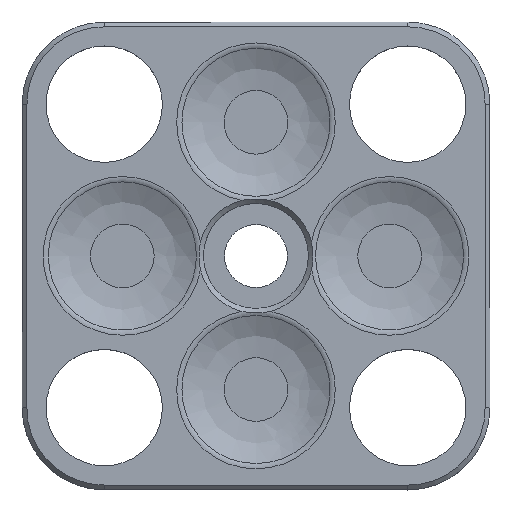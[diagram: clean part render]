
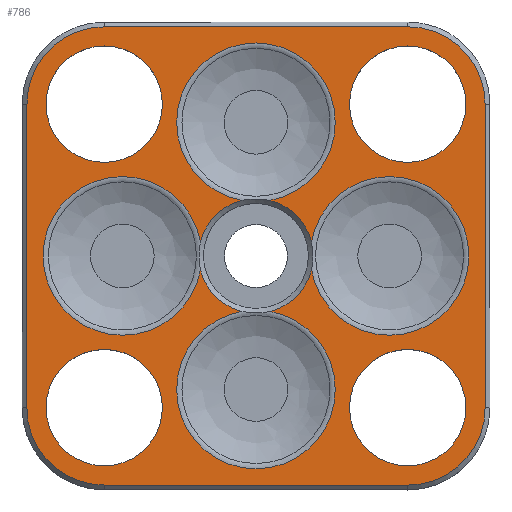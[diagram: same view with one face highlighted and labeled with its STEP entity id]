
A CAD part, top view. The second image highlights one B-rep face of the part: STEP entity #786.
In plain terms, the highlighted planar face has unit normal (0, 0, 1).
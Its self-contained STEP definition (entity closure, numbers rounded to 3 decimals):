
#35=FACE_BOUND('',#154,.T.);
#36=FACE_BOUND('',#155,.T.);
#37=FACE_BOUND('',#156,.T.);
#38=FACE_BOUND('',#157,.T.);
#39=FACE_BOUND('',#158,.T.);
#54=PLANE('',#873);
#98=FACE_OUTER_BOUND('',#153,.T.);
#153=EDGE_LOOP('',(#633,#634,#635,#636,#637,#638,#639,#640));
#154=EDGE_LOOP('',(#641));
#155=EDGE_LOOP('',(#642));
#156=EDGE_LOOP('',(#643));
#157=EDGE_LOOP('',(#644));
#158=EDGE_LOOP('',(#645,#646,#647,#648,#649,#650,#651,#652,#653,#654,#655));
#210=LINE('',#1283,#259);
#214=LINE('',#1294,#263);
#217=LINE('',#1302,#266);
#220=LINE('',#1310,#269);
#259=VECTOR('',#1027,10.);
#263=VECTOR('',#1039,10.);
#266=VECTOR('',#1048,10.);
#269=VECTOR('',#1057,10.);
#298=CIRCLE('',#859,8.12);
#300=CIRCLE('',#863,8.11);
#301=CIRCLE('',#866,8.1);
#302=CIRCLE('',#869,8.113);
#304=CIRCLE('',#874,6.1);
#305=CIRCLE('',#875,6.1);
#306=CIRCLE('',#876,6.1);
#307=CIRCLE('',#877,6.1);
#308=CIRCLE('',#878,6.);
#309=CIRCLE('',#879,8.311);
#310=CIRCLE('',#880,6.);
#311=CIRCLE('',#881,8.311);
#312=CIRCLE('',#882,8.311);
#313=CIRCLE('',#883,6.);
#314=CIRCLE('',#884,8.311);
#315=CIRCLE('',#885,8.311);
#316=CIRCLE('',#886,6.);
#317=CIRCLE('',#887,8.311);
#318=CIRCLE('',#888,8.311);
#368=VERTEX_POINT('',#1276);
#371=VERTEX_POINT('',#1281);
#372=VERTEX_POINT('',#1285);
#374=VERTEX_POINT('',#1291);
#375=VERTEX_POINT('',#1296);
#376=VERTEX_POINT('',#1300);
#377=VERTEX_POINT('',#1304);
#378=VERTEX_POINT('',#1308);
#379=VERTEX_POINT('',#1319);
#380=VERTEX_POINT('',#1321);
#381=VERTEX_POINT('',#1323);
#382=VERTEX_POINT('',#1325);
#383=VERTEX_POINT('',#1327);
#384=VERTEX_POINT('',#1328);
#385=VERTEX_POINT('',#1330);
#386=VERTEX_POINT('',#1332);
#387=VERTEX_POINT('',#1334);
#388=VERTEX_POINT('',#1336);
#389=VERTEX_POINT('',#1338);
#390=VERTEX_POINT('',#1340);
#391=VERTEX_POINT('',#1342);
#392=VERTEX_POINT('',#1344);
#393=VERTEX_POINT('',#1346);
#454=EDGE_CURVE('',#371,#368,#210,.T.);
#455=EDGE_CURVE('',#368,#372,#298,.T.);
#460=EDGE_CURVE('',#372,#374,#214,.T.);
#461=EDGE_CURVE('',#374,#375,#300,.T.);
#464=EDGE_CURVE('',#375,#376,#217,.T.);
#465=EDGE_CURVE('',#376,#377,#301,.T.);
#468=EDGE_CURVE('',#377,#378,#220,.T.);
#469=EDGE_CURVE('',#378,#371,#302,.T.);
#473=EDGE_CURVE('',#379,#379,#304,.T.);
#474=EDGE_CURVE('',#380,#380,#305,.T.);
#475=EDGE_CURVE('',#381,#381,#306,.T.);
#476=EDGE_CURVE('',#382,#382,#307,.T.);
#477=EDGE_CURVE('',#383,#384,#308,.T.);
#478=EDGE_CURVE('',#385,#383,#309,.T.);
#479=EDGE_CURVE('',#386,#385,#310,.T.);
#480=EDGE_CURVE('',#387,#386,#311,.T.);
#481=EDGE_CURVE('',#388,#387,#312,.T.);
#482=EDGE_CURVE('',#389,#388,#313,.T.);
#483=EDGE_CURVE('',#390,#389,#314,.T.);
#484=EDGE_CURVE('',#391,#390,#315,.T.);
#485=EDGE_CURVE('',#392,#391,#316,.T.);
#486=EDGE_CURVE('',#393,#392,#317,.T.);
#487=EDGE_CURVE('',#384,#393,#318,.T.);
#633=ORIENTED_EDGE('',*,*,#454,.F.);
#634=ORIENTED_EDGE('',*,*,#469,.F.);
#635=ORIENTED_EDGE('',*,*,#468,.F.);
#636=ORIENTED_EDGE('',*,*,#465,.F.);
#637=ORIENTED_EDGE('',*,*,#464,.F.);
#638=ORIENTED_EDGE('',*,*,#461,.F.);
#639=ORIENTED_EDGE('',*,*,#460,.F.);
#640=ORIENTED_EDGE('',*,*,#455,.F.);
#641=ORIENTED_EDGE('',*,*,#473,.T.);
#642=ORIENTED_EDGE('',*,*,#474,.T.);
#643=ORIENTED_EDGE('',*,*,#475,.T.);
#644=ORIENTED_EDGE('',*,*,#476,.T.);
#645=ORIENTED_EDGE('',*,*,#477,.F.);
#646=ORIENTED_EDGE('',*,*,#478,.F.);
#647=ORIENTED_EDGE('',*,*,#479,.F.);
#648=ORIENTED_EDGE('',*,*,#480,.F.);
#649=ORIENTED_EDGE('',*,*,#481,.F.);
#650=ORIENTED_EDGE('',*,*,#482,.F.);
#651=ORIENTED_EDGE('',*,*,#483,.F.);
#652=ORIENTED_EDGE('',*,*,#484,.F.);
#653=ORIENTED_EDGE('',*,*,#485,.F.);
#654=ORIENTED_EDGE('',*,*,#486,.F.);
#655=ORIENTED_EDGE('',*,*,#487,.F.);
#786=ADVANCED_FACE('',(#98,#35,#36,#37,#38,#39),#54,.T.);
#859=AXIS2_PLACEMENT_3D('',#1286,#1030,#1031);
#863=AXIS2_PLACEMENT_3D('',#1297,#1042,#1043);
#866=AXIS2_PLACEMENT_3D('',#1305,#1051,#1052);
#869=AXIS2_PLACEMENT_3D('',#1312,#1060,#1061);
#873=AXIS2_PLACEMENT_3D('',#1318,#1070,#1071);
#874=AXIS2_PLACEMENT_3D('',#1320,#1072,#1073);
#875=AXIS2_PLACEMENT_3D('',#1322,#1074,#1075);
#876=AXIS2_PLACEMENT_3D('',#1324,#1076,#1077);
#877=AXIS2_PLACEMENT_3D('',#1326,#1078,#1079);
#878=AXIS2_PLACEMENT_3D('',#1329,#1080,#1081);
#879=AXIS2_PLACEMENT_3D('',#1331,#1082,#1083);
#880=AXIS2_PLACEMENT_3D('',#1333,#1084,#1085);
#881=AXIS2_PLACEMENT_3D('',#1335,#1086,#1087);
#882=AXIS2_PLACEMENT_3D('',#1337,#1088,#1089);
#883=AXIS2_PLACEMENT_3D('',#1339,#1090,#1091);
#884=AXIS2_PLACEMENT_3D('',#1341,#1092,#1093);
#885=AXIS2_PLACEMENT_3D('',#1343,#1094,#1095);
#886=AXIS2_PLACEMENT_3D('',#1345,#1096,#1097);
#887=AXIS2_PLACEMENT_3D('',#1347,#1098,#1099);
#888=AXIS2_PLACEMENT_3D('',#1348,#1100,#1101);
#1027=DIRECTION('',(0.,-1.,0.));
#1030=DIRECTION('center_axis',(0.,0.,-1.));
#1031=DIRECTION('ref_axis',(0.,-1.,0.));
#1039=DIRECTION('',(-1.,0.,0.));
#1042=DIRECTION('center_axis',(0.,0.,-1.));
#1043=DIRECTION('ref_axis',(-1.,0.,0.));
#1048=DIRECTION('',(0.,1.,0.));
#1051=DIRECTION('center_axis',(0.,0.,-1.));
#1052=DIRECTION('ref_axis',(0.,1.,0.));
#1057=DIRECTION('',(1.,0.,0.));
#1060=DIRECTION('center_axis',(0.,0.,-1.));
#1061=DIRECTION('ref_axis',(1.,0.,0.));
#1070=DIRECTION('center_axis',(0.,0.,1.));
#1071=DIRECTION('ref_axis',(1.,0.,0.));
#1072=DIRECTION('center_axis',(0.,0.,-1.));
#1073=DIRECTION('ref_axis',(1.,0.,0.));
#1074=DIRECTION('center_axis',(0.,0.,-1.));
#1075=DIRECTION('ref_axis',(1.,0.,0.));
#1076=DIRECTION('center_axis',(0.,0.,-1.));
#1077=DIRECTION('ref_axis',(1.,0.,0.));
#1078=DIRECTION('center_axis',(0.,0.,-1.));
#1079=DIRECTION('ref_axis',(1.,0.,0.));
#1080=DIRECTION('center_axis',(0.,0.,1.));
#1081=DIRECTION('ref_axis',(-1.,0.,0.));
#1082=DIRECTION('center_axis',(0.,0.,1.));
#1083=DIRECTION('ref_axis',(1.,0.,0.));
#1084=DIRECTION('center_axis',(0.,0.,1.));
#1085=DIRECTION('ref_axis',(-1.,0.,0.));
#1086=DIRECTION('center_axis',(0.,0.,1.));
#1087=DIRECTION('ref_axis',(1.,0.,0.));
#1088=DIRECTION('center_axis',(0.,0.,1.));
#1089=DIRECTION('ref_axis',(1.,0.,0.));
#1090=DIRECTION('center_axis',(0.,0.,1.));
#1091=DIRECTION('ref_axis',(-1.,0.,0.));
#1092=DIRECTION('center_axis',(0.,0.,1.));
#1093=DIRECTION('ref_axis',(1.,0.,0.));
#1094=DIRECTION('center_axis',(0.,0.,1.));
#1095=DIRECTION('ref_axis',(1.,0.,0.));
#1096=DIRECTION('center_axis',(0.,0.,1.));
#1097=DIRECTION('ref_axis',(-1.,0.,0.));
#1098=DIRECTION('center_axis',(0.,0.,1.));
#1099=DIRECTION('ref_axis',(1.,0.,0.));
#1100=DIRECTION('center_axis',(0.,0.,1.));
#1101=DIRECTION('ref_axis',(1.,0.,0.));
#1276=CARTESIAN_POINT('',(24.02,-15.898,0.));
#1281=CARTESIAN_POINT('',(24.013,15.902,0.));
#1283=CARTESIAN_POINT('',(24.015,7.952,0.));
#1285=CARTESIAN_POINT('',(15.897,-24.02,0.));
#1286=CARTESIAN_POINT('Origin',(15.9,-15.9,0.));
#1291=CARTESIAN_POINT('',(-15.903,-24.01,0.));
#1294=CARTESIAN_POINT('',(7.947,-24.018,0.));
#1296=CARTESIAN_POINT('',(-24.01,-15.897,0.));
#1297=CARTESIAN_POINT('Origin',(-15.9,-15.9,0.));
#1300=CARTESIAN_POINT('',(-24.,15.903,0.));
#1302=CARTESIAN_POINT('',(-24.008,-7.947,0.));
#1304=CARTESIAN_POINT('',(-15.903,24.,0.));
#1305=CARTESIAN_POINT('Origin',(-15.9,15.9,0.));
#1308=CARTESIAN_POINT('',(15.897,24.013,0.));
#1310=CARTESIAN_POINT('',(-7.954,24.003,0.));
#1312=CARTESIAN_POINT('Origin',(15.9,15.9,0.));
#1318=CARTESIAN_POINT('Origin',(0.005,-0.004,
0.));
#1319=CARTESIAN_POINT('',(-22.,15.9,0.));
#1320=CARTESIAN_POINT('Origin',(-15.9,15.9,0.));
#1321=CARTESIAN_POINT('',(-22.,-15.9,0.));
#1322=CARTESIAN_POINT('Origin',(-15.9,-15.9,0.));
#1323=CARTESIAN_POINT('',(9.8,-15.9,0.));
#1324=CARTESIAN_POINT('Origin',(15.9,-15.9,0.));
#1325=CARTESIAN_POINT('',(9.8,15.9,0.));
#1326=CARTESIAN_POINT('Origin',(15.9,15.9,0.));
#1327=CARTESIAN_POINT('',(-5.819,-1.464,0.));
#1328=CARTESIAN_POINT('',(-1.464,-5.819,0.));
#1329=CARTESIAN_POINT('Origin',(0.,0.,0.));
#1330=CARTESIAN_POINT('',(-5.819,1.464,0.));
#1331=CARTESIAN_POINT('Origin',(-14.,0.,0.));
#1332=CARTESIAN_POINT('',(-1.464,5.819,0.));
#1333=CARTESIAN_POINT('Origin',(0.,0.,0.));
#1334=CARTESIAN_POINT('',(8.311,14.,0.));
#1335=CARTESIAN_POINT('Origin',(0.,14.,0.));
#1336=CARTESIAN_POINT('',(1.464,5.819,0.));
#1337=CARTESIAN_POINT('Origin',(0.,14.,0.));
#1338=CARTESIAN_POINT('',(5.819,1.464,0.));
#1339=CARTESIAN_POINT('Origin',(0.,0.,0.));
#1340=CARTESIAN_POINT('',(22.311,0.,0.));
#1341=CARTESIAN_POINT('Origin',(14.,0.,0.));
#1342=CARTESIAN_POINT('',(5.819,-1.464,0.));
#1343=CARTESIAN_POINT('Origin',(14.,0.,0.));
#1344=CARTESIAN_POINT('',(1.464,-5.819,0.));
#1345=CARTESIAN_POINT('Origin',(0.,0.,0.));
#1346=CARTESIAN_POINT('',(8.311,-14.,0.));
#1347=CARTESIAN_POINT('Origin',(0.,-14.,0.));
#1348=CARTESIAN_POINT('Origin',(0.,-14.,0.));
